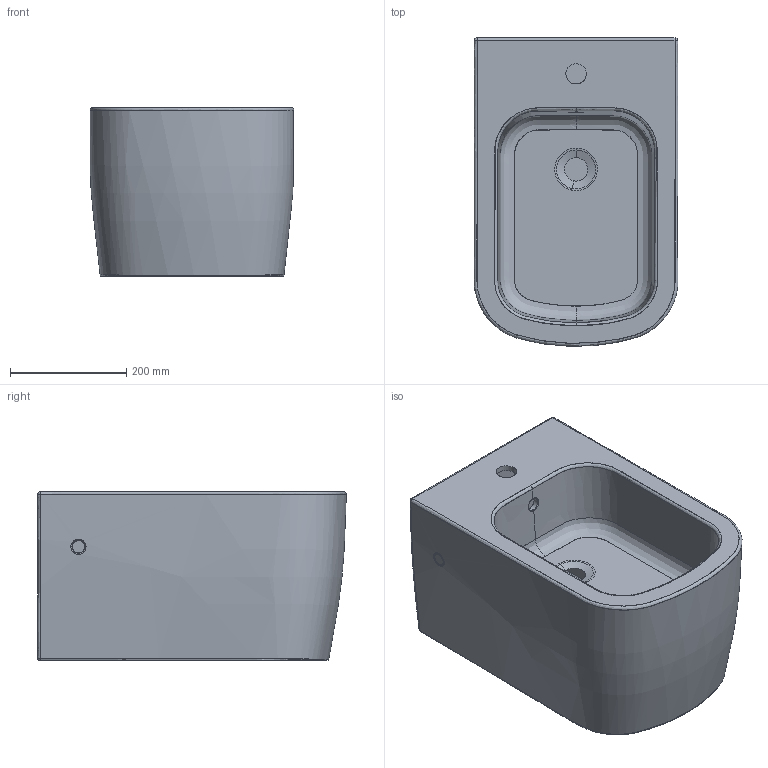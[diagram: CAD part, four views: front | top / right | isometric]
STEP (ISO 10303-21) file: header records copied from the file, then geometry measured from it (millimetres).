
FILE_DESCRIPTION(/* description */ (''),/* implementation_level */ '2;1');
FILE_NAME(/* name */ 'BIDETS~1',/* time_stamp */ '2019-12-16T11:50:46+01:00',/* author */ (''),/* organization */ (''),/* preprocessor_version */ 'ST-DEVELOPER v16.5',/* originating_system */ '',/* authorisation */ '');
FILE_SCHEMA (('AUTOMOTIVE_DESIGN'));
Length unit declared in the file: centimetre
Products named in the file (1): Document
Bounding box: 350.2 x 529.94 x 290 mm (x, y, z)
Surface area: 912516.7 mm2
Topology: 2 solids, 24 shells, 60 faces, 177 edges, 137 vertices
Faces by surface type: bspline 52, plane 8
Entity records: 5979 total; most frequent: CARTESIAN_POINT 5049, ORIENTED_EDGE 261, EDGE_CURVE 177, VERTEX_POINT 137, EDGE_LOOP 64, ADVANCED_FACE 59, FACE_OUTER_BOUND 59, B_SPLINE_CURVE_WITH_KNOTS 34
